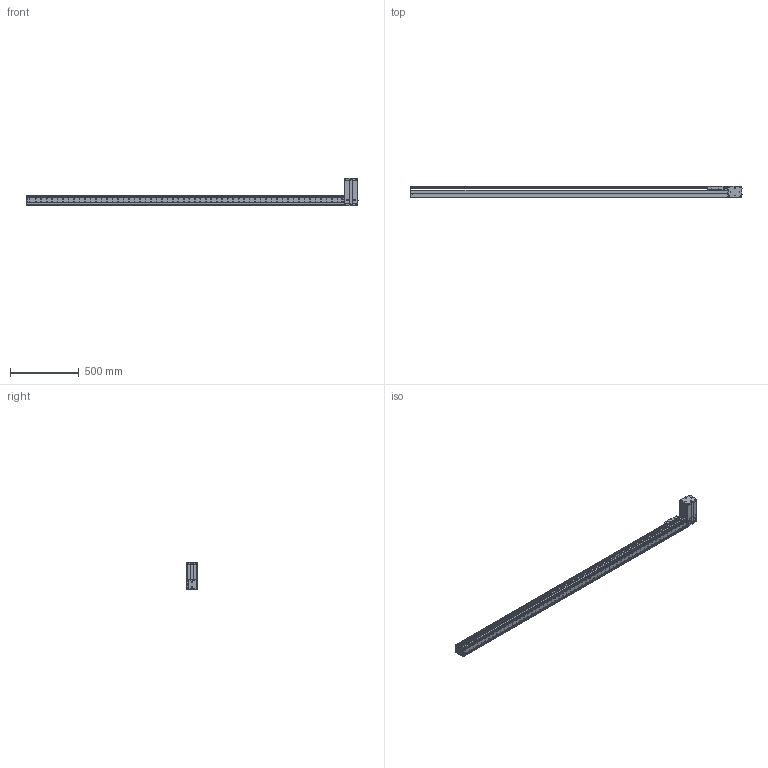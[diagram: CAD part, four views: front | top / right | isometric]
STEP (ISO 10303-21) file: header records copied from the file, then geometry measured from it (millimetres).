
FILE_DESCRIPTION((''),'2;1');
FILE_NAME('BE10_-BR-M_N-M0_IGS_PRT','2017-06-18T',(' '),(''),'PRO/ENGINEER BY PARAMETRIC TECHNOLOGY CORPORATION, 2015030','PRO/ENGINEER BY PARAMETRIC TECHNOLOGY CORPORATION, 2015030','');
FILE_SCHEMA(('CONFIG_CONTROL_DESIGN'));
Products named in the file (1): BE10_-BR-M_N-M0_IGS_PRT
Bounding box: 2420.8 x 85 x 200.22 mm (x, y, z)
Volume: 3119189.9 mm3; surface area: 2197925.2 mm2
Topology: 5 solids, 193 shells, 2440 faces, 6685 edges, 4466 vertices
Faces by surface type: cylinder 1192, plane 1085, cone 107, sphere 28, torus 25, bspline 3
Entity records: 80153 total; most frequent: CARTESIAN_POINT 16638, DIRECTION 13550, ORIENTED_EDGE 12506, EDGE_CURVE 6615, AXIS2_PLACEMENT_3D 5007, VERTEX_POINT 4462, VECTOR 3536, LINE 3536
